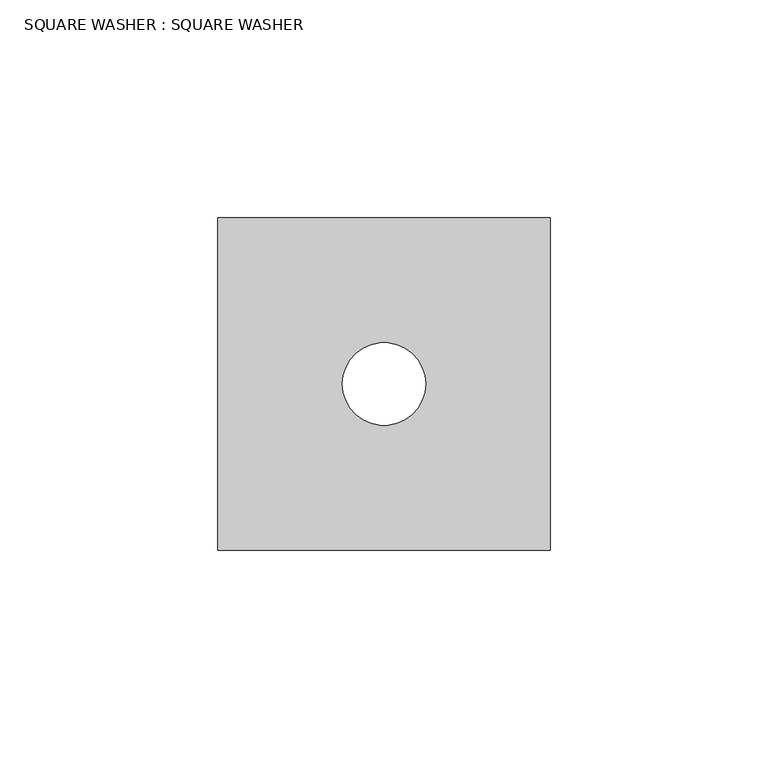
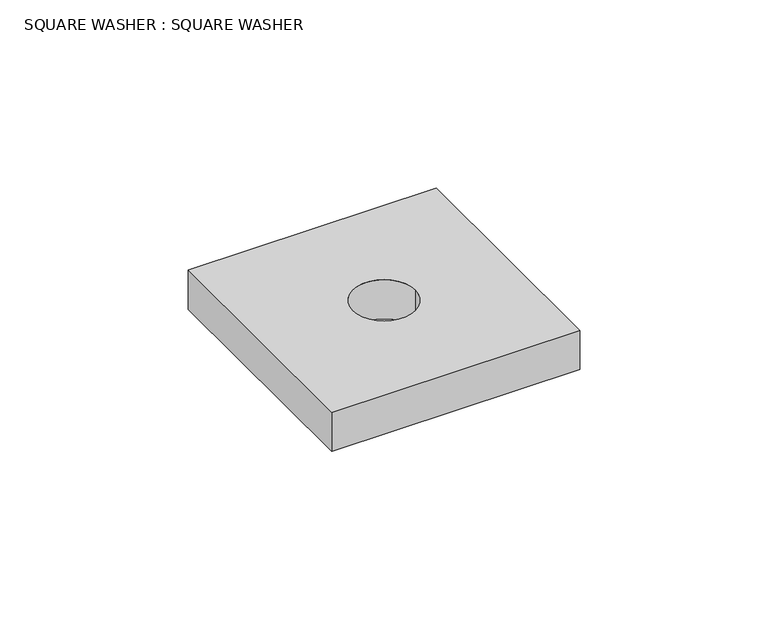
"""IFC4 building model written with IfcOpenShell, lengths in millimetres: proxy geometry, SQUARE WASHER : SQUARE WASHER."""

from ifc_helpers import new_model, si_unit, point, origin, origin_with_axes, origin_2d, place, context, project, spatial, polyline, circle_curve, trimmed, segment, composite_curve, outline, extrude, source, transform, mapped, element, save


def square_washer_square_washer_f6f5ad69(model_context):
    return source(origin(), model_context, "Body", "SweptSolid", [
        extrude(outline(polyline([(38.1, 38.1), (38.1, -38.1), (-38.1, -38.1), (-38.1, 38.1), (38.1, 38.1)]), holes=[composite_curve([segment(trimmed(circle_curve(origin_2d(), 9.525), [point((-9.525, 0.0))], [point((9.525, 0.0))], True, "CARTESIAN"), True, "CONTINUOUS"), segment(trimmed(circle_curve(origin_2d(), 9.525), [point((9.525, 0.0))], [point((-9.525, 0.0))], True, "CARTESIAN"), True, "CONTINUOUS")], self_intersect=False)]), origin_with_axes(), (0.0, 0.0, 1.0), 12.7),
    ])


if __name__ == "__main__":
    model = new_model("IFC4")
    model_context = context("Model", 3, world=origin())
    ifc_project = project(units=[si_unit("LENGTHUNIT", "METRE", prefix="MILLI")], contexts=[model_context])
    site = spatial("IfcSite", under=ifc_project)
    building = spatial("IfcBuilding", under=site)
    placement = place(None, origin())
    square_washer_square_washer_shape = square_washer_square_washer_f6f5ad69(model_context)
    element("IfcBuildingElementProxy", 1, Name="SQUARE WASHER : SQUARE WASHER", ObjectType="SQUARE WASHER : SQUARE WASHER", at=placement, inside=building, context=model_context, shape_type="MappedRepresentation", body=[
        mapped(square_washer_square_washer_shape, transform((0.0, 0.0, 0.0), x_axis=(1.0, 0.0, 0.0), y_axis=(0.0, 1.0, 0.0), z_axis=(0.0, 0.0, 1.0))),
    ])
    save(model, "model.ifc")
